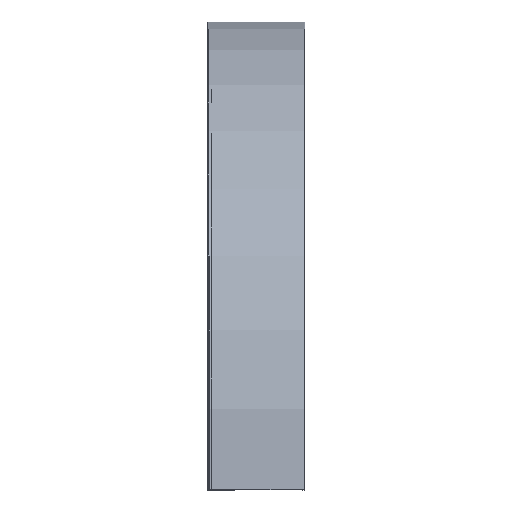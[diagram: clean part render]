
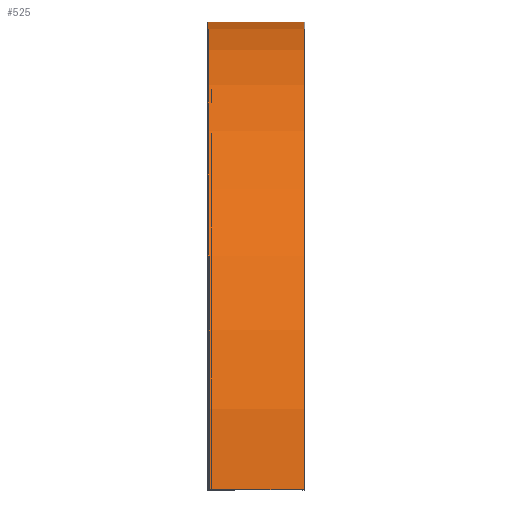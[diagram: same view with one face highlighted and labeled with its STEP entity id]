
A CAD part, left-side view. The second image highlights one B-rep face of the part: STEP entity #525.
In plain terms, the highlighted cylindrical face has radius 386 mm (diameter 772 mm), a partial arc.
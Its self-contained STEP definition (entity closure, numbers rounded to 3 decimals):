
#154 = VERTEX_POINT ( 'NONE', #1143 ) ;
#243 = VECTOR ( 'NONE', #1747, 1000. ) ;
#283 = EDGE_CURVE ( 'NONE', #154, #909, #2182, .T. ) ;
#290 = DIRECTION ( 'NONE',  ( 0., -1., 0. ) ) ;
#321 = ORIENTED_EDGE ( 'NONE', *, *, #283, .T. ) ;
#377 = CARTESIAN_POINT ( 'NONE',  ( 362.5, 79.5, 0. ) ) ;
#525 = ADVANCED_FACE ( 'NONE', ( #1309 ), #1459, .T. ) ;
#594 = VERTEX_POINT ( 'NONE', #1898 ) ;
#909 = VERTEX_POINT ( 'NONE', #1768 ) ;
#971 = AXIS2_PLACEMENT_3D ( 'NONE', #1057, #1438, #2021 ) ;
#1013 = EDGE_CURVE ( 'NONE', #1099, #154, #1189, .T. ) ;
#1035 = LINE ( 'NONE', #1896, #1720 ) ;
#1038 = EDGE_LOOP ( 'NONE', ( #2577, #321, #2546, #1733 ) ) ;
#1057 = CARTESIAN_POINT ( 'NONE',  ( 362.5, 0., 0. ) ) ;
#1099 = VERTEX_POINT ( 'NONE', #1425 ) ;
#1143 = CARTESIAN_POINT ( 'NONE',  ( 362.5, 0.5, 386. ) ) ;
#1172 = EDGE_CURVE ( 'NONE', #594, #1099, #1035, .T. ) ;
#1176 = CARTESIAN_POINT ( 'NONE',  ( 362.5, 0.5, 0. ) ) ;
#1189 = CIRCLE ( 'NONE', #2065, 386. ) ;
#1309 = FACE_OUTER_BOUND ( 'NONE', #1038, .T. ) ;
#1360 = DIRECTION ( 'NONE',  ( -1., 0., 0. ) ) ;
#1417 = EDGE_CURVE ( 'NONE', #594, #909, #1809, .T. ) ;
#1425 = CARTESIAN_POINT ( 'NONE',  ( -23.5, 0.5, 0. ) ) ;
#1438 = DIRECTION ( 'NONE',  ( 0., 1., 0. ) ) ;
#1459 = CYLINDRICAL_SURFACE ( 'NONE', #971, 386. ) ;
#1546 = CARTESIAN_POINT ( 'NONE',  ( 362.5, 0., 386. ) ) ;
#1561 = AXIS2_PLACEMENT_3D ( 'NONE', #377, #1770, #1360 ) ;
#1720 = VECTOR ( 'NONE', #290, 1000. ) ;
#1733 = ORIENTED_EDGE ( 'NONE', *, *, #1172, .T. ) ;
#1747 = DIRECTION ( 'NONE',  ( 0., 1., 0. ) ) ;
#1768 = CARTESIAN_POINT ( 'NONE',  ( 362.5, 79.5, 386. ) ) ;
#1770 = DIRECTION ( 'NONE',  ( 0., 1., 0. ) ) ;
#1809 = CIRCLE ( 'NONE', #1561, 386. ) ;
#1896 = CARTESIAN_POINT ( 'NONE',  ( -23.5, 79.5, 0. ) ) ;
#1898 = CARTESIAN_POINT ( 'NONE',  ( -23.5, 79.5, 0. ) ) ;
#2021 = DIRECTION ( 'NONE',  ( 0., 0., 1. ) ) ;
#2065 = AXIS2_PLACEMENT_3D ( 'NONE', #1176, #2608, #2221 ) ;
#2182 = LINE ( 'NONE', #1546, #243 ) ;
#2221 = DIRECTION ( 'NONE',  ( -1., 0., 0. ) ) ;
#2546 = ORIENTED_EDGE ( 'NONE', *, *, #1417, .F. ) ;
#2577 = ORIENTED_EDGE ( 'NONE', *, *, #1013, .T. ) ;
#2608 = DIRECTION ( 'NONE',  ( 0., 1., 0. ) ) ;
